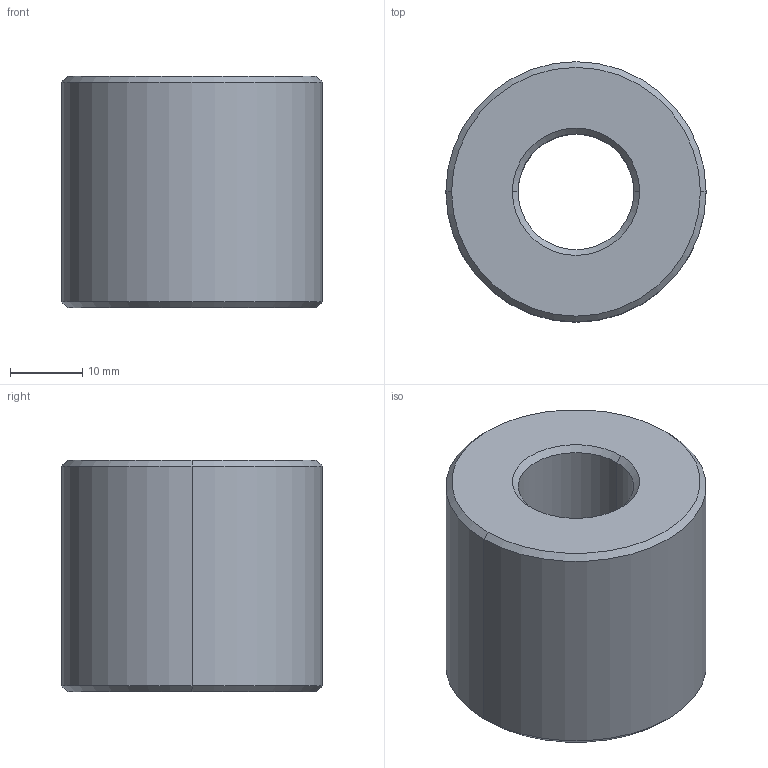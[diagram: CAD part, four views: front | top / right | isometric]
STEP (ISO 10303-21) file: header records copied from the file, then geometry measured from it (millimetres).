
FILE_DESCRIPTION (( 'STEP AP203' ), '1' );
FILE_NAME ('L1343.L16-04.step', '2024-10-24T14:41:21', ( '' ), ( '' ), 'SwSTEP 2.0', 'SolidWorks 2019', '' );
FILE_SCHEMA (( 'CONFIG_CONTROL_DESIGN' ));
Length unit declared in the file: millimetre
Products named in the file (1): L1343.L16-04
Bounding box: 36 x 36 x 32 mm (x, y, z)
Volume: 26033.5 mm3; surface area: 6708.1 mm2
Topology: 1 solids, 1 shells, 14 faces, 28 edges, 16 vertices
Faces by surface type: cone 8, cylinder 4, plane 2
Entity records: 445 total; most frequent: DIRECTION 74, CARTESIAN_POINT 59, ORIENTED_EDGE 56, AXIS2_PLACEMENT_3D 31, EDGE_CURVE 28, CIRCLE 16, EDGE_LOOP 16, VERTEX_POINT 16
